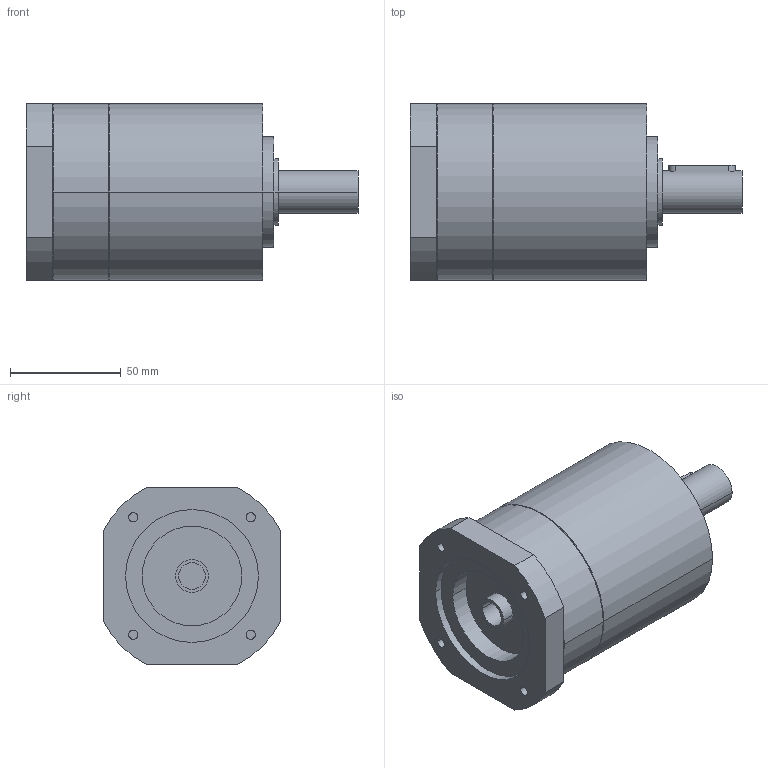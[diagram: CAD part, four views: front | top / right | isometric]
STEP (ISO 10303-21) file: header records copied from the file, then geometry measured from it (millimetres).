
FILE_DESCRIPTION(('CoCreate Modeling STEP Export'),'2;1');
FILE_NAME('GPR100_ig-3-4-5-6_19_B14_12.7_P23.stp','2014-08-26T10:06:33',(''),(''),'CoCreate Modeling STEP processor for AP214 (Solid Model)','CoCreate Modeling 16.00C 25-Feb-2009 (C) Parametric Technology GmbH','');
FILE_SCHEMA(('AUTOMOTIVE_DESIGN { 1 0 10303 214 1 1 1 1 }'));
Length unit declared in the file: millimetre
Products named in the file (2): GPR100_ig-3-4-5-6_19_B14_12.7_P23
Assembly tree (1 placements, depth 2):
  GPR100_ig-3-4-5-6_19_B14_12.7_P23
    GPR100_ig-3-4-5-6_19_B14_12.7_P23
Bounding box: 150 x 80 x 80 mm (x, y, z)
Volume: 541420.6 mm3; surface area: 47473.4 mm2
Topology: 1 solids, 1 shells, 74 faces, 185 edges, 129 vertices
Faces by surface type: cylinder 42, plane 26, cone 6
Entity records: 1933 total; most frequent: ORIENTED_EDGE 366, CARTESIAN_POINT 358, DIRECTION 264, EDGE_CURVE 183, VERTEX_POINT 129, AXIS2_PLACEMENT_3D 99, EDGE_LOOP 92, FACE_OUTER_BOUND 74
